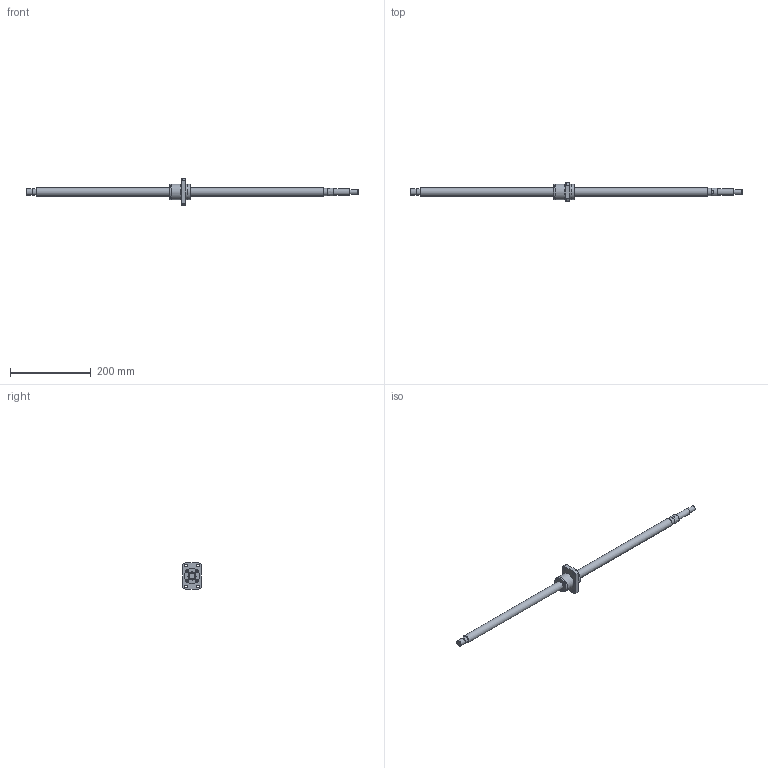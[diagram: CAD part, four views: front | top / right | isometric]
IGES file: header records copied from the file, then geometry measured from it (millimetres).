
Start section: Data from Parasolid IGES Translator 26.0.171, Copyright(c) 2006 Siemens PLM Software. All Rights Reserved.
Global section: file name: BNK2020-3.6G0+820LC5Y(3810).igs; native system: By Siemens PLM Incorporated; preprocessor: XPlus GENERIC/IGES 26.0.171; author: Noname; organization: Noname; date: 20240709.094019; units: millimetre
Bounding box: 820 x 46 x 66 mm (x, y, z)
Surface area: 68214.6 mm2 (no closed solid volume)
Topology: 0 solids, 0 shells, 139 faces, 649 edges, 588 vertices
Faces by surface type: extrusion 75, revolution 64
